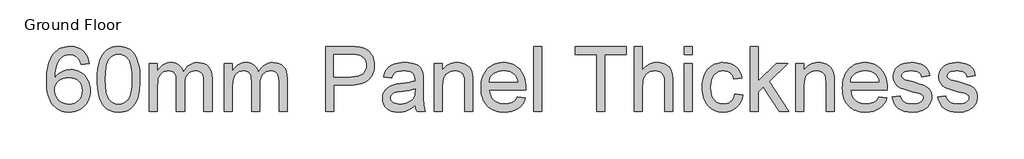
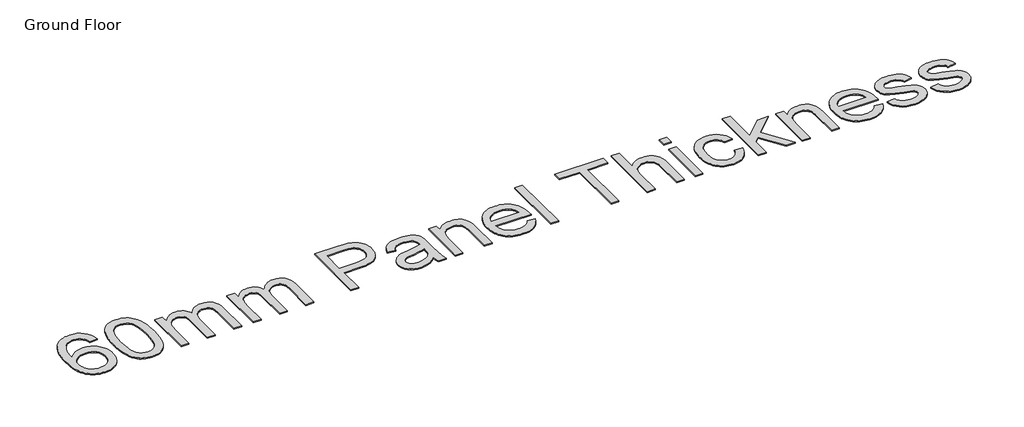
# One storey, part 12 of 14: 1 proxy.
"""IFC4 building model written with IfcOpenShell, lengths in millimetres."""

from ifc_helpers import new_model, si_unit, origin, origin_with_axes, place, context, project, spatial, polyline, outline, extrude, element, save

model = new_model("IFC4")

# Units and contexts
model_context = context("Model", 3, world=origin())
ifc_project = project(units=[si_unit("LENGTHUNIT", "METRE", prefix="MILLI")], contexts=[model_context])

# Site, building, storey
site = spatial("IfcSite", under=ifc_project)
building = spatial("IfcBuilding", under=site)
storey = spatial("IfcBuildingStorey", under=building, Name="Ground Floor", Elevation=0.0)

# Proxy
placement = place(None, origin())
element("IfcBuildingElementProxy", 1, Name="1200mm Arial", ObjectType="1200mm Arial", at=placement, inside=storey, context=model_context, shape_type="SweptSolid", body=[
    extrude(outline(polyline([(10291.2693651, 8965.5363547), (10144.3602742, 8947.1727183), (10133.5644645, 8986.4644442), (10120.6883992, 9019.9816672), (10105.7320782, 9047.7243874), (10088.6955015, 9069.6926047), (10057.1150682, 9096.4310635), (10022.0555867, 9115.5299626), (9983.5170569, 9126.9893021), (9941.4994788, 9130.809082), (9906.8524617, 9128.5853604), (9873.209706, 9121.9141956), (9840.5712117, 9110.7955876), (9808.9369788, 9095.2295365), (9780.0734312, 9069.7733043), (9753.7384702, 9039.0267666), (9729.9320959, 9002.9899236), (9708.6543083, 8961.6627751), (9691.0349013, 8912.319469), (9678.2036691, 8852.234153), (9670.1606116, 8781.406827), (9666.9057288, 8699.8374911), (9694.9084809, 8736.7530628), (9725.8343509, 8768.593528), (9759.6833388, 8795.3588867), (9796.4554447, 8817.0491388), (9835.1643403, 8833.8077503), (9874.8236975, 8845.7781871), (9915.4335164, 8852.9604492), (9956.9937969, 8855.3545365), (9992.9678736, 8853.7181285), (10027.5790242, 8848.8089044), (10060.8272486, 8840.6268643), (10092.7125469, 8829.1720081), (10123.2349191, 8814.4443359), (10152.3943651, 8796.4438476), (10180.190885, 8775.1705433), (10206.6244788, 8750.6244229), (10230.7671013, 8723.4869495), (10251.6907074, 8694.4395862), (10269.3952973, 8663.482333), (10283.8808708, 8630.6151899), (10295.147428, 8595.8381569), (10303.1949688, 8559.151234), (10308.0234933, 8520.5544211), (10309.6330015, 8480.0477183), (10306.6022842, 8426.4901011), (10297.5101322, 8374.8513405), (10282.3565455, 8325.1314364), (10261.1415242, 8277.3303888), (10234.6182643, 8233.232555), (10203.5399617, 8194.6222922), (10167.9066165, 8161.4996004), (10127.7182288, 8133.8644797), (10083.8355938, 8112.0845614), (10037.1195072, 8096.5274768), (9987.5699688, 8087.1932261), (9935.1869788, 8084.0818092), (9890.3381906, 8086.1441317), (9847.6100079, 8092.331099), (9807.0024306, 8102.6427112), (9768.5154589, 8117.0789683), (9732.1490926, 8135.6398703), (9697.9033317, 8158.3254172), (9665.7781764, 8185.135609), (9635.7736265, 8216.0704456), (9608.6383948, 8251.7396572), (9585.121194, 8292.752974), (9565.222024, 8339.1103959), (9548.940885, 8390.8119229), (9536.2777769, 8447.857555), (9527.2326996, 8510.2472922), (9521.8056533, 8577.9811345), (9519.9966378, 8651.059082), (9522.0051606, 8732.8839666), (9528.0307288, 8808.9253817), (9538.0733424, 8879.1833273), (9552.1330015, 8943.6578036), (9570.209706, 9002.3488103), (9592.303456, 9055.2563476), (9618.4142515, 9102.3804154), (9648.5420924, 9143.7210138), (9677.8046545, 9175.1265979), (9709.4971705, 9202.3447709), (9743.6196403, 9225.3755326), (9780.172064, 9244.2188831), (9819.1544415, 9258.8748224), (9860.5667728, 9269.3433504), (9904.4090579, 9275.6244673), (9950.6812969, 9277.7181729), (10018.3434063, 9272.5354669), (10079.5854163, 9256.987349), (10134.4073268, 9231.0738192), (10182.8091378, 9194.7948774), (10223.4817231, 9149.369984), (10255.115956, 9096.018599), (10277.7118367, 9034.7407226), (10291.2693651, 8965.5363547)]), holes=[polyline([(9666.9057288, 8482.3431729), (9669.0308175, 8449.4267134), (9675.4060839, 8417.2455166), (9686.0315278, 8385.7995827), (9700.9071492, 8355.0889115), (9719.306652, 8326.5571288), (9740.5037401, 8301.6478604), (9764.4984134, 8280.3611061), (9791.2906719, 8262.6968661), (9820.7101499, 8248.825506), (9852.5864816, 8238.9173916), (9886.919667, 8232.972523), (9923.709706, 8230.9909001), (9974.774603, 8235.0976118), (10020.6567941, 8247.4177467), (10061.3562792, 8267.951305), (10096.8730583, 8296.6982865), (10125.6828062, 8332.4930308), (10146.2611975, 8374.1698774), (10158.6082323, 8421.7288263), (10162.7239106, 8475.1698774), (10158.662032, 8526.5217063), (10146.4763964, 8572.1169655), (10126.1670036, 8611.9556551), (10097.7338538, 8646.0377751), (10062.1094752, 8673.341131), (10020.2263964, 8692.843528), (9972.0846172, 8704.5449662), (9917.6841378, 8708.4454456), (9867.3007039, 8704.5449662), (9820.8805157, 8692.843528), (9778.4235732, 8673.341131), (9739.9298765, 8646.0377751), (9707.9818118, 8612.4039861), (9685.1617657, 8573.9102893), (9671.469738, 8530.5566849), (9666.9057288, 8482.3431729)])]), origin_with_axes(), (0.0, 0.0, 1.0), 20.0),
    extrude(outline(polyline([(10438.178456, 8680.6130592), (10440.8774084, 8779.4341707), (10448.9742657, 8868.7327325), (10462.4690278, 8948.5087446), (10481.3616947, 9018.762207), (10505.5715668, 9080.0669832), (10535.0179447, 9132.9969371), (10569.7008282, 9177.5520685), (10609.6202174, 9213.7323774), (10654.9106116, 9241.7261629), (10705.70651, 9261.721724), (10762.0079127, 9273.7190607), (10823.8148197, 9277.7181729), (10870.2619077, 9275.3509854), (10914.3418083, 9268.2494229), (10956.0545214, 9256.4134854), (10995.4000469, 9239.8431729), (11031.4279234, 9218.8164506), (11063.187689, 9193.6112837), (11090.6793438, 9164.2276722), (11113.9028878, 9130.6656161), (11134.0239816, 9093.0596146), (11152.2082856, 9051.5441672), (11182.7665242, 8956.7849342), (11194.4410626, 8901.0573952), (11202.7800185, 8836.452903), (11207.7833921, 8762.9714577), (11209.4511833, 8680.6130592), (11206.7791307, 8582.4196111), (11198.7629731, 8493.5693803), (11185.4027103, 8414.0623668), (11166.6983424, 8343.8985706), (11142.6767692, 8282.5668945), (11113.3648907, 8229.5562411), (11078.7627067, 8184.8666104), (11038.8702174, 8148.4980024), (10993.5260235, 8120.3159179), (10942.5687259, 8100.1858575), (10885.9983246, 8088.1078213), (10823.8148197, 8084.0818092), (10782.209706, 8085.8303), (10742.9000469, 8091.0757723), (10705.8858424, 8099.8182261), (10671.1670924, 8112.0576615), (10638.7437969, 8127.7940784), (10608.615956, 8147.0274768), (10580.7835697, 8169.7578568), (10555.2466378, 8195.9852183), (10527.8087827, 8237.5141157), (10504.0293083, 8284.485751), (10483.9082145, 8336.9001242), (10467.4455015, 8394.7572354), (10454.6411691, 8458.0570844), (10445.4952174, 8526.7996715), (10440.0076464, 8600.9849964), (10438.178456, 8680.6130592)]), holes=[polyline([(10585.0875469, 8680.8999911), (10589.3915242, 8553.1884321), (10602.303456, 8449.812278), (10611.9874049, 8407.2499777), (10623.8233424, 8370.7715287), (10637.8112685, 8340.3769309), (10653.9511833, 8316.0661842), (10690.3915242, 8278.8457474), (10730.8489106, 8252.2597212), (10775.3233424, 8236.3081054), (10823.8148197, 8230.9909001), (10872.3062969, 8236.3260386), (10916.7807288, 8252.3314541), (10957.2381151, 8279.0071466), (10993.678456, 8316.3531161), (11009.8183708, 8340.7221457), (11023.8062969, 8371.1481267), (11035.6422344, 8407.6310591), (11045.3261833, 8450.1709428), (11058.2381151, 8553.4215642), (11062.5420924, 8680.8999911), (11058.381581, 8805.2311345), (11045.9000469, 8906.7870649), (11036.5388964, 8949.0243252), (11025.0974901, 8985.5677822), (11011.5758282, 9016.417436), (10995.9739106, 9041.5732865), (10960.1432998, 9080.613947), (10919.2196492, 9108.5001331), (10873.2029589, 9125.2318447), (10822.0932288, 9130.809082), (10773.8528168, 9125.8953746), (10730.131581, 9111.1542524), (10690.9295214, 9086.5857155), (10656.2466378, 9052.1897638), (10639.5687259, 9024.3573774), (10625.1145356, 8991.2167524), (10612.8840668, 8952.7678888), (10602.8773197, 8909.0107865), (10589.5349901, 8805.5718661), (10585.0875469, 8680.8999911)])]), origin_with_axes(), (0.0, 0.0, 1.0), 20.0),
    extrude(outline(polyline([(11374.7239106, 8102.4454456), (11374.7239106, 8965.5363547), (11521.6330015, 8965.5363547), (11521.6330015, 8823.5051047), (11542.1486265, 8857.8920898), (11565.8205015, 8888.7462268), (11592.6486265, 8916.0675159), (11622.6330015, 8939.855957), (11655.289429, 8959.1252219), (11690.1337117, 8972.8889825), (11727.1658495, 8981.1472389), (11766.3858424, 8983.8999911), (11809.264216, 8981.0934392), (11848.0896776, 8972.6737837), (11882.8622273, 8958.6410244), (11913.5818651, 8938.9951615), (11940.1589248, 8914.2921253), (11962.5037401, 8885.0878462), (11980.6163111, 8851.3823242), (11994.4966378, 8813.1755592), (12020.3294681, 8853.1890979), (12048.0452884, 8887.8674982), (12077.6440988, 8917.2107599), (12109.1258992, 8941.2188831), (12142.4906897, 8959.8918678), (12177.7384702, 8973.2297141), (12214.8692408, 8981.2324218), (12253.8830015, 8983.8999911), (12312.6950576, 8979.4615145), (12364.315885, 8966.1460848), (12408.7454837, 8943.953702), (12445.9838538, 8912.8843661), (12475.421265, 8872.5794122), (12496.4479873, 8822.6801757), (12509.0640207, 8763.1866565), (12513.2693651, 8694.0988547), (12513.2693651, 8102.4454456), (12366.3602742, 8102.4454456), (12366.3602742, 8630.9738547), (12362.9529589, 8704.2490678), (12352.7310128, 8753.637207), (12344.5355228, 8771.4538795), (12333.578314, 8787.459295), (12319.8593864, 8801.6534534), (12303.3787401, 8814.0363547), (12284.7371386, 8824.0789683), (12264.5353452, 8831.2522638), (12219.4511833, 8836.9909001), (12177.8191698, 8833.3145862), (12139.8634702, 8822.2856445), (12105.5840846, 8803.9040749), (12074.9810128, 8778.1698774), (12049.8117124, 8744.3298561), (12031.8336407, 8701.6308149), (12021.0467976, 8650.0727538), (12017.4511833, 8589.6556729), (12017.4511833, 8102.4454456), (11870.5420924, 8102.4454456), (11870.5420924, 8647.3289683), (11868.4170036, 8691.8392666), (11862.0417373, 8730.3957297), (11851.4162934, 8762.9983575), (11836.5406719, 8789.6471501), (11816.8230761, 8810.3600408), (11791.6717089, 8825.1549626), (11761.0865704, 8834.0319158), (11725.0676606, 8836.9909001), (11696.2130796, 8835.0182439), (11668.4703594, 8829.1002751), (11641.8395001, 8819.2369939), (11616.3205015, 8805.4284001), (11593.0790242, 8787.8179598), (11573.2807288, 8766.5491388), (11556.9256151, 8741.6219371), (11544.0136833, 8713.0363547), (11534.222135, 8679.2680663), (11527.2281719, 8638.7927467), (11521.6330015, 8537.7210138), (11521.6330015, 8102.4454456), (11374.7239106, 8102.4454456)])), origin_with_axes(), (0.0, 0.0, 1.0), 20.0),
    extrude(outline(polyline([(12733.6330015, 8102.4454456), (12733.6330015, 8965.5363547), (12880.5420924, 8965.5363547), (12880.5420924, 8823.5051047), (12901.0577174, 8857.8920898), (12924.7295924, 8888.7462268), (12951.5577174, 8916.0675159), (12981.5420924, 8939.855957), (13014.1985199, 8959.1252219), (13049.0428026, 8972.8889825), (13086.0749404, 8981.1472389), (13125.2949333, 8983.8999911), (13168.1733069, 8981.0934392), (13206.9987685, 8972.6737837), (13241.7713182, 8958.6410244), (13272.490956, 8938.9951615), (13299.0680157, 8914.2921253), (13321.412831, 8885.0878462), (13339.525402, 8851.3823242), (13353.4057288, 8813.1755592), (13379.238559, 8853.1890979), (13406.9543793, 8887.8674982), (13436.5531897, 8917.2107599), (13468.0349901, 8941.2188831), (13501.3997806, 8959.8918678), (13536.6475611, 8973.2297141), (13573.7783317, 8981.2324218), (13612.7920924, 8983.8999911), (13671.6041485, 8979.4615145), (13723.2249759, 8966.1460848), (13767.6545746, 8943.953702), (13804.8929447, 8912.8843661), (13834.3303559, 8872.5794122), (13855.3570782, 8822.6801757), (13867.9731116, 8763.1866565), (13872.178456, 8694.0988547), (13872.178456, 8102.4454456), (13725.2693651, 8102.4454456), (13725.2693651, 8630.9738547), (13721.8620498, 8704.2490678), (13711.6401038, 8753.637207), (13703.4446137, 8771.4538795), (13692.4874049, 8787.459295), (13678.7684773, 8801.6534534), (13662.287831, 8814.0363547), (13643.6462295, 8824.0789683), (13623.4444361, 8831.2522638), (13578.3602742, 8836.9909001), (13536.7282607, 8833.3145862), (13498.7725611, 8822.2856445), (13464.4931755, 8803.9040749), (13433.8901038, 8778.1698774), (13408.7208033, 8744.3298561), (13390.7427316, 8701.6308149), (13379.9558886, 8650.0727538), (13376.3602742, 8589.6556729), (13376.3602742, 8102.4454456), (13229.4511833, 8102.4454456), (13229.4511833, 8647.3289683), (13227.3260945, 8691.8392666), (13220.9508282, 8730.3957297), (13210.3253843, 8762.9983575), (13195.4497628, 8789.6471501), (13175.732167, 8810.3600408), (13150.5807998, 8825.1549626), (13119.9956613, 8834.0319158), (13083.9767515, 8836.9909001), (13055.1221705, 8835.0182439), (13027.3794503, 8829.1002751), (13000.748591, 8819.2369939), (12975.2295924, 8805.4284001), (12951.9881151, 8787.8179598), (12932.1898197, 8766.5491388), (12915.834706, 8741.6219371), (12902.9227742, 8713.0363547), (12893.1312259, 8679.2680663), (12886.1372628, 8638.7927467), (12880.5420924, 8537.7210138), (12880.5420924, 8102.4454456), (12733.6330015, 8102.4454456)])), origin_with_axes(), (0.0, 0.0, 1.0), 20.0),
    extrude(outline(polyline([(14569.9966378, 8102.4454456), (14569.9966378, 9277.7181729), (15005.5591378, 9277.7181729), (15106.9895356, 9274.9205876), (15181.1614106, 9266.527832), (15222.040228, 9257.7136452), (15259.4579305, 9245.6176757), (15293.4145178, 9230.2399236), (15323.9099901, 9211.5803888), (15351.2671457, 9189.2535067), (15375.8087827, 9162.8737126), (15397.5349013, 9132.4410067), (15416.4455015, 9097.9553888), (15431.7604873, 9060.5556196), (15442.6997628, 9021.3804598), (15449.2633282, 8980.4299094), (15451.4511833, 8937.7039683), (15445.5421812, 8865.5585493), (15438.1559285, 8831.6512783), (15427.8151748, 8799.1876331), (15414.51992, 8768.1676136), (15398.2701641, 8738.5912197), (15379.0659072, 8710.4584516), (15356.9071492, 8683.7693092), (15330.8927449, 8659.4249378), (15300.1215491, 8638.3264825), (15264.5935617, 8620.4739435), (15224.3087827, 8605.8673206), (15179.2672122, 8594.5066139), (15129.4688502, 8586.3918234), (15074.9136966, 8581.5229492), (15015.6017515, 8579.8999911), (14716.9057288, 8579.8999911), (14716.9057288, 8102.4454456), (14569.9966378, 8102.4454456)]), holes=[polyline([(14716.9057288, 8726.809082), (15024.209706, 8726.809082), (15094.8666663, 8730.1805308), (15154.4767515, 8740.2948774), (15203.0399617, 8757.1521217), (15240.5562969, 8780.7522638), (15268.5500824, 8810.4676402), (15288.5456435, 8845.6705876), (15300.5429802, 8886.3611061), (15304.5420924, 8932.5391956), (15302.1838715, 8966.8275479), (15295.1092089, 8998.5335138), (15283.3181045, 9027.6570933), (15266.8105583, 9054.1982865), (15246.4652991, 9077.2962979), (15223.1610555, 9096.090332), (15196.8978275, 9110.5803888), (15167.6756151, 9120.7664683), (15111.006581, 9128.2984286), (15020.7665242, 9130.809082), (14716.9057288, 9130.809082), (14716.9057288, 8726.809082)])]), origin_with_axes(), (0.0, 0.0, 1.0), 20.0),
    extrude(outline(polyline([(16185.9966378, 8212.6272638), (16151.1613218, 8179.9349697), (16115.8059418, 8152.4433149), (16079.9304979, 8130.1522993), (16043.5349901, 8113.0619229), (16006.2069539, 8100.3831232), (15967.5339248, 8091.3268376), (15927.5159028, 8085.8930663), (15886.1528878, 8084.0818092), (15820.7413999, 8088.4395862), (15763.3819361, 8101.5129172), (15714.0744965, 8123.3018021), (15672.819081, 8153.8062411), (15640.243353, 8191.0894442), (15616.9749759, 8233.2146217), (15603.0139496, 8280.1817737), (15598.3602742, 8331.9909001), (15600.1177316, 8363.1409357), (15605.3901038, 8392.8921786), (15614.1773907, 8421.2446288), (15626.4795924, 8448.1982865), (15641.6421457, 8473.1613547), (15659.0104873, 8495.5420365), (15678.5846172, 8515.340332), (15700.3645356, 8532.5562411), (15748.9636123, 8560.5320933), (15803.2295924, 8580.7607865), (15856.0967799, 8592.0228604), (15930.3403878, 8602.8545365), (16080.5491947, 8626.0960138), (16138.5452884, 8639.2231445), (16185.1358424, 8653.3545365), (16185.9966378, 8686.0647638), (16183.4680512, 8721.6801757), (16175.8822913, 8751.6286842), (16163.239358, 8775.9102893), (16145.5392515, 8794.5249911), (16114.9451464, 8813.1038263), (16077.6798765, 8826.3744229), (16033.7434418, 8834.3367808), (15983.1358424, 8836.9909001), (15936.0790242, 8835.2244761), (15895.6216378, 8829.9252041), (15861.7636833, 8821.0930841), (15834.5051606, 8808.7281161), (15812.1065455, 8791.8619051), (15792.828314, 8769.5260564), (15776.670466, 8741.7205699), (15763.6330015, 8708.4454456), (15616.7239106, 8726.809082), (15627.9052849, 8769.1315251), (15642.2249759, 8807.1499911), (15659.6829837, 8840.8644797), (15680.2793083, 8870.2749911), (15704.9016449, 8895.973322), (15734.437689, 8918.5512695), (15768.8874404, 8938.0088334), (15808.2508992, 8954.3460138), (15851.7300363, 8967.2758788), (15898.5268225, 8976.5114967), (15948.6412579, 8982.0528675), (16002.0733424, 8983.8999911), (16054.3038999, 8982.2680663), (16101.387618, 8977.3722922), (16143.3244965, 8969.2126686), (16180.1145356, 8957.7891956), (16212.0626002, 8943.8999023), (16239.4735555, 8928.3428178), (16262.3474013, 8911.117942), (16280.6841378, 8892.2252751), (16295.5507927, 8871.1985528), (16308.0143935, 8847.5715109), (16325.7324333, 8792.5164683), (16331.1124049, 8741.7295365), (16332.9057288, 8663.9710138), (16332.9057288, 8481.1954456), (16334.7707856, 8321.984153), (16340.365956, 8225.9695933), (16351.412831, 8162.8804598), (16369.6330015, 8102.4454456), (16222.7239106, 8102.4454456), (16209.6685128, 8126.9781161), (16199.1955015, 8153.5193092), (16185.9966378, 8212.6272638)]), holes=[polyline([(16185.9966378, 8506.4454456), (16141.593939, 8493.7307794), (16087.2920924, 8481.9845081), (15948.990956, 8461.3971501), (15872.7746918, 8450.1350763), (15822.5974901, 8437.5818092), (15789.7079305, 8421.2984286), (15765.3545924, 8398.8460138), (15750.2906719, 8371.9461558), (15745.2693651, 8342.3204456), (15748.004184, 8319.4914328), (15756.2086407, 8298.6350763), (15769.8827351, 8279.751376), (15789.0264674, 8262.840332), (15813.460505, 8248.9062055), (15843.0055157, 8238.9532581), (15877.6614993, 8232.9814896), (15917.428456, 8230.9909001), (15958.0293083, 8233.1877219), (15996.334706, 8239.7781871), (16032.3446492, 8250.7622957), (16066.0591378, 8266.1400479), (16096.4739106, 8284.6381835), (16122.584706, 8304.9834428), (16144.3915242, 8327.1758256), (16161.8943651, 8351.215332), (16172.0625114, 8372.7352183), (16179.3254731, 8398.8460138), (16183.6832501, 8429.5477183), (16185.1358424, 8464.840332), (16185.9966378, 8506.4454456)])]), origin_with_axes(), (0.0, 0.0, 1.0), 20.0),
    extrude(outline(polyline([(16534.9057288, 8102.4454456), (16534.9057288, 8965.5363547), (16681.8148197, 8965.5363547), (16681.8148197, 8845.0249911), (16706.0515917, 8877.5738192), (16732.8528168, 8905.7828036), (16762.2184951, 8929.6519442), (16794.1486265, 8949.1812411), (16828.643211, 8964.3706942), (16865.7022486, 8975.2203036), (16905.3257394, 8981.7300692), (16947.5136833, 8983.8999911), (16984.4830547, 8982.1515003), (17019.9281009, 8976.906028), (17053.8488218, 8968.1635742), (17086.2452174, 8955.9241388), (17115.8888609, 8940.8422851), (17141.5513253, 8923.5725763), (17163.2326109, 8904.1150124), (17180.9327174, 8882.4695933), (17207.653243, 8832.7227893), (17224.9767515, 8774.4397638), (17230.7871208, 8718.7032581), (17232.7239106, 8632.4085138), (17232.7239106, 8102.4454456), (17085.8148197, 8102.4454456), (17085.8148197, 8612.6102183), (17081.5825753, 8688.5754172), (17076.2922699, 8718.3266601), (17068.8858424, 8742.590332), (17058.7983957, 8763.0252574), (17045.4650327, 8781.2902609), (17028.8857536, 8797.3853426), (17009.0605583, 8811.3105024), (16986.6709099, 8822.5456764), (16962.3982714, 8830.5708007), (16936.2426428, 8835.3858753), (16908.2040242, 8836.9909001), (16863.5950931, 8833.3863192), (16822.1603452, 8822.5725763), (16783.8997806, 8804.5496715), (16748.8133992, 8779.3176047), (16733.1106071, 8763.280806), (16719.5015207, 8744.0070578), (16707.9861398, 8721.49636), (16698.5644645, 8695.7487126), (16686.0022309, 8634.5425692), (16681.8148197, 8560.3886274), (16681.8148197, 8102.4454456), (16534.9057288, 8102.4454456)])), origin_with_axes(), (0.0, 0.0, 1.0), 20.0),
    extrude(outline(polyline([(18039.0023197, 8359.5363547), (18183.0420924, 8341.1727183), (18160.957309, 8283.4814896), (18131.1432998, 8232.6407581), (18093.6000647, 8188.6505237), (18048.3276038, 8151.5107865), (17995.7921812, 8122.010609), (17936.4600611, 8100.9390536), (17870.3312437, 8088.2961203), (17797.4057288, 8084.0818092), (17750.586526, 8085.8997913), (17706.2510768, 8091.3537375), (17664.3993811, 8100.4436478), (17625.031439, 8113.1695223), (17588.1472504, 8129.5313609), (17553.7468154, 8149.5291636), (17521.8301339, 8173.1629305), (17492.397206, 8200.4326615), (17465.9680956, 8230.9841752), (17443.0628665, 8264.4632901), (17423.6815189, 8300.8700061), (17407.8240526, 8340.2043234), (17395.4904677, 8382.4662419), (17386.6807643, 8427.6557617), (17381.3949422, 8475.7728826), (17379.6330015, 8526.8176047), (17381.4128754, 8579.5996093), (17386.7524972, 8629.34193), (17395.6518669, 8676.0445667), (17408.1109844, 8719.7075195), (17424.1298498, 8760.3307883), (17443.7084631, 8797.9143732), (17466.8468243, 8832.4582741), (17493.5449333, 8863.9624911), (17523.0809773, 8892.0728426), (17554.7331435, 8916.4351473), (17588.5014319, 8937.0494051), (17624.3858424, 8953.9156161), (17662.3863751, 8967.0337801), (17702.5030299, 8976.4038973), (17744.7358069, 8982.0259676), (17789.084706, 8983.8999911), (17831.9832545, 8982.0304509), (17872.8777636, 8976.4218305), (17911.7682332, 8967.0741299), (17948.6546634, 8953.987349), (17983.5370542, 8937.1614879), (18016.4154056, 8916.5965465), (18047.2897176, 8892.2925248), (18076.1599901, 8864.2494229), (18102.2864772, 8832.8169389), (18124.9294326, 8798.3447709), (18144.0888564, 8760.832919), (18159.7647486, 8720.2813831), (18171.9571093, 8676.6901633), (18180.6659383, 8630.0592595), (18185.8912357, 8580.3886718), (18187.6330015, 8527.6784001), (18186.772206, 8488.0818092), (17526.5420924, 8488.0818092), (17535.0514141, 8429.4580521), (17551.9714248, 8378.1151899), (17577.3021243, 8334.0532226), (17611.0435128, 8297.2721501), (17651.3305334, 8268.2741033), (17696.2981293, 8247.5612126), (17745.9463005, 8235.1334783), (17800.2750469, 8230.9909001), (17840.9117657, 8232.9097567), (17878.4639674, 8238.6663263), (17912.931652, 8248.260609), (17944.3148197, 8261.6926047), (17972.6134702, 8279.3209783), (17997.8276038, 8301.5043945), (18019.9572202, 8328.2428533), (18039.0023197, 8359.5363547)]), holes=[polyline([(17526.5420924, 8634.9909001), (18040.7239106, 8634.9909001), (18033.1740171, 8676.5601473), (18020.8538822, 8712.605957), (18003.7635057, 8743.1283291), (17981.9028878, 8768.1272638), (17941.8400327, 8798.2551047), (17896.2537401, 8819.7749911), (17845.14401, 8832.6869229), (17788.5108424, 8836.9909001), (17736.8541485, 8833.5566849), (17689.4834986, 8823.2540393), (17646.3988928, 8806.0829634), (17607.600331, 8782.043457), (17575.0425363, 8752.247381), (17550.6802316, 8717.8065962), (17534.513417, 8678.7211026), (17526.5420924, 8634.9909001)])]), origin_with_axes(), (0.0, 0.0, 1.0), 20.0),
    extrude(outline(polyline([(18334.5420924, 8102.4454456), (18334.5420924, 9277.7181729), (18481.4511833, 9277.7181729), (18481.4511833, 8102.4454456), (18334.5420924, 8102.4454456)])), origin_with_axes(), (0.0, 0.0, 1.0), 20.0),
    extrude(outline(polyline([(19473.0875469, 8102.4454456), (19473.0875469, 9130.809082), (19087.4511833, 9130.809082), (19087.4511833, 9277.7181729), (20005.6330015, 9277.7181729), (20005.6330015, 9130.809082), (19619.9966378, 9130.809082), (19619.9966378, 8102.4454456), (19473.0875469, 8102.4454456)])), origin_with_axes(), (0.0, 0.0, 1.0), 20.0),
    extrude(outline(polyline([(20152.5420924, 8102.4454456), (20152.5420924, 9277.7181729), (20299.4511833, 9277.7181729), (20299.4511833, 8845.5988547), (20325.6023285, 8878.0131835), (20353.4122984, 8906.1056018), (20382.8810927, 8929.8761097), (20414.0087117, 8949.324707), (20446.7951552, 8964.4513938), (20481.2404234, 8975.25617), (20517.344516, 8981.7390358), (20555.1074333, 8983.8999911), (20601.0344574, 8981.5417702), (20643.8410981, 8974.4671075), (20683.5273552, 8962.6760031), (20720.0932288, 8946.168457), (20752.6061904, 8925.5003994), (20780.1337117, 8901.2277609), (20802.6757927, 8873.3505415), (20820.2324333, 8841.8687411), (20833.4133637, 8804.8366033), (20842.828314, 8760.3083717), (20848.4772842, 8708.2840465), (20850.3602742, 8648.7636274), (20850.3602742, 8102.4454456), (20703.4511833, 8102.4454456), (20703.4511833, 8633.5562411), (20700.5280654, 8683.1595791), (20691.7587117, 8725.5178888), (20677.1431222, 8760.63117), (20656.6812969, 8788.4994229), (20630.8574333, 8809.7144442), (20600.1557288, 8824.8680308), (20564.5761833, 8833.9601828), (20524.1187969, 8836.9909001), (20492.60113, 8834.9465109), (20462.0339248, 8828.8133433), (20432.4171812, 8818.5913973), (20403.7508992, 8804.2806729), (20377.586304, 8786.4729669), (20355.4746208, 8765.7600763), (20337.4158495, 8742.142001), (20323.4099901, 8715.6187411), (20312.9280121, 8684.9708362), (20305.440885, 8648.9788263), (20300.9486087, 8607.6427112), (20299.4511833, 8560.9624911), (20299.4511833, 8102.4454456), (20152.5420924, 8102.4454456)])), origin_with_axes(), (0.0, 0.0, 1.0), 20.0),
    extrude(outline(polyline([(21052.3602742, 8102.4454456), (21052.3602742, 8965.5363547), (21199.2693651, 8965.5363547), (21199.2693651, 8102.4454456), (21052.3602742, 8102.4454456)])), origin_with_axes(), (0.0, 0.0, 1.0), 20.0),
    extrude(outline(polyline([(21052.3602742, 9130.809082), (21052.3602742, 9277.7181729), (21199.2693651, 9277.7181729), (21199.2693651, 9130.809082), (21052.3602742, 9130.809082)])), origin_with_axes(), (0.0, 0.0, 1.0), 20.0),
    extrude(outline(polyline([(21970.5420924, 8414.6272638), (22117.4511833, 8396.2636274), (22101.4726677, 8326.9426935), (22076.4916663, 8265.6020507), (22042.508179, 8212.2416992), (21999.522206, 8166.8616388), (21949.3450043, 8130.6454634), (21893.787831, 8104.7767666), (21832.8506861, 8089.2555486), (21766.5335697, 8084.0818092), (21724.2716512, 8085.8863414), (21684.1393047, 8091.2999378), (21646.1365304, 8100.3225985), (21610.2633282, 8112.9543234), (21576.519698, 8129.1951127), (21544.90564, 8149.0449662), (21515.421154, 8172.503884), (21488.0662401, 8199.5718661), (21463.4192453, 8230.011297), (21442.0585164, 8263.5845614), (21423.9840535, 8300.2916592), (21409.1958566, 8340.1325905), (21397.6939257, 8383.1073552), (21389.4782607, 8429.2159534), (21384.5488617, 8478.4583851), (21382.9057288, 8530.8346501), (21385.7122806, 8598.3801935), (21394.1319361, 8661.5679598), (21408.1646954, 8720.3979492), (21427.8105583, 8774.8701615), (21453.2040242, 8823.8906693), (21484.4795924, 8866.365545), (21521.6372628, 8902.2947886), (21564.6770356, 8931.6784001), (21611.6531542, 8954.5253462), (21660.6198623, 8970.8445933), (21711.5771599, 8980.6361416), (21764.5250469, 8983.8999911), (21829.7034028, 8979.4166814), (21888.6589248, 8965.9667524), (21941.391613, 8943.5502041), (21987.9014674, 8912.1670365), (22027.3994255, 8872.5345791), (22059.0964248, 8825.3701615), (22082.9924653, 8770.6737837), (22099.0875469, 8708.4454456), (21952.178456, 8690.0818092), (21940.7101499, 8724.3970614), (21925.5296634, 8754.1752041), (21906.6369965, 8779.4162375), (21884.0321492, 8800.1201615), (21858.2889851, 8816.2511097), (21829.981368, 8827.7732155), (21799.1092976, 8834.686479), (21765.6727742, 8836.9909001), (21715.7556045, 8832.4537908), (21670.7342089, 8818.8424626), (21630.6085874, 8796.1569158), (21595.3787401, 8764.3971501), (21580.0121963, 8744.9306196), (21566.6945249, 8722.827903), (21546.2057998, 8670.7139115), (21533.9125647, 8608.0551757), (21529.8148197, 8534.8516956), (21533.8228985, 8460.5453213), (21545.847135, 8397.1602893), (21565.8875292, 8344.6965997), (21578.9137854, 8322.5602583), (21593.944081, 8303.1542524), (21628.474532, 8271.5827858), (21667.9366236, 8249.0317382), (21712.3303559, 8235.5011097), (21761.6557288, 8230.9909001), (21801.4047522, 8233.8064186), (21837.728527, 8242.252974), (21870.6270533, 8256.3305663), (21900.100331, 8276.0391956), (21925.3234312, 8301.5940607), (21945.4714248, 8333.2103604), (21960.5443118, 8370.8880947), (21970.5420924, 8414.6272638)])), origin_with_axes(), (0.0, 0.0, 1.0), 20.0),
    extrude(outline(polyline([(22245.9966378, 8102.4454456), (22245.9966378, 9277.7181729), (22392.9057288, 9277.7181729), (22392.9057288, 8646.1812411), (22722.303456, 8965.5363547), (22925.4511833, 8965.5363547), (22592.0364106, 8642.1641956), (22943.8148197, 8102.4454456), (22772.2295924, 8102.4454456), (22486.7324333, 8540.0164683), (22392.9057288, 8449.059082), (22392.9057288, 8102.4454456), (22245.9966378, 8102.4454456)])), origin_with_axes(), (0.0, 0.0, 1.0), 20.0),
    extrude(outline(polyline([(23072.3602742, 8102.4454456), (23072.3602742, 8965.5363547), (23219.2693651, 8965.5363547), (23219.2693651, 8845.0249911), (23243.5061371, 8877.5738192), (23270.3073623, 8905.7828036), (23299.6730405, 8929.6519442), (23331.6031719, 8949.1812411), (23366.0977565, 8964.3706942), (23403.1567941, 8975.2203036), (23442.7802849, 8981.7300692), (23484.9682288, 8983.8999911), (23521.9376002, 8982.1515003), (23557.3826464, 8976.906028), (23591.3033672, 8968.1635742), (23623.6997628, 8955.9241388), (23653.3434063, 8940.8422851), (23679.0058708, 8923.5725763), (23700.6871563, 8904.1150124), (23718.3872628, 8882.4695933), (23745.1077884, 8832.7227893), (23762.4312969, 8774.4397638), (23768.2416663, 8718.7032581), (23770.178456, 8632.4085138), (23770.178456, 8102.4454456), (23623.2693651, 8102.4454456), (23623.2693651, 8612.6102183), (23619.0371208, 8688.5754172), (23613.7468154, 8718.3266601), (23606.3403878, 8742.590332), (23596.2529411, 8763.0252574), (23582.9195782, 8781.2902609), (23566.3402991, 8797.3853426), (23546.5151038, 8811.3105024), (23524.1254553, 8822.5456764), (23499.8528168, 8830.5708007), (23473.6971883, 8835.3858753), (23445.6585697, 8836.9909001), (23401.0496386, 8833.3863192), (23359.6148907, 8822.5725763), (23321.3543261, 8804.5496715), (23286.2679447, 8779.3176047), (23270.5651526, 8763.280806), (23256.9560661, 8744.0070578), (23245.4406853, 8721.49636), (23236.01901, 8695.7487126), (23223.4567763, 8634.5425692), (23219.2693651, 8560.3886274), (23219.2693651, 8102.4454456), (23072.3602742, 8102.4454456)])), origin_with_axes(), (0.0, 0.0, 1.0), 20.0),
    extrude(outline(polyline([(24576.4568651, 8359.5363547), (24720.4966378, 8341.1727183), (24698.4118545, 8283.4814896), (24668.5978452, 8232.6407581), (24631.0546101, 8188.6505237), (24585.7821492, 8151.5107865), (24533.2467266, 8122.010609), (24473.9146066, 8100.9390536), (24407.7857891, 8088.2961203), (24334.8602742, 8084.0818092), (24288.0410714, 8085.8997913), (24243.7056222, 8091.3537375), (24201.8539266, 8100.4436478), (24162.4859844, 8113.1695223), (24125.6017959, 8129.5313609), (24091.2013609, 8149.5291636), (24059.2846794, 8173.1629305), (24029.8517515, 8200.4326615), (24003.422641, 8230.9841752), (23980.517412, 8264.4632901), (23961.1360643, 8300.8700061), (23945.2785981, 8340.2043234), (23932.9450132, 8382.4662419), (23924.1353097, 8427.6557617), (23918.8494876, 8475.7728826), (23917.0875469, 8526.8176047), (23918.8674209, 8579.5996093), (23924.2070427, 8629.34193), (23933.1064123, 8676.0445667), (23945.5655299, 8719.7075195), (23961.5843953, 8760.3307883), (23981.1630086, 8797.9143732), (24004.3013697, 8832.4582741), (24030.9994788, 8863.9624911), (24060.5355228, 8892.0728426), (24092.187689, 8916.4351473), (24125.9559773, 8937.0494051), (24161.8403878, 8953.9156161), (24199.8409205, 8967.0337801), (24239.9575753, 8976.4038973), (24282.1903523, 8982.0259676), (24326.5392515, 8983.8999911), (24369.4378, 8982.0304509), (24410.332309, 8976.4218305), (24449.2227786, 8967.0741299), (24486.1092089, 8953.987349), (24520.9915997, 8937.1614879), (24553.8699511, 8916.5965465), (24584.744263, 8892.2925248), (24613.6145356, 8864.2494229), (24639.7410226, 8832.8169389), (24662.383978, 8798.3447709), (24681.5434019, 8760.832919), (24697.2192941, 8720.2813831), (24709.4116547, 8676.6901633), (24718.1204837, 8630.0592595), (24723.3457811, 8580.3886718), (24725.0875469, 8527.6784001), (24724.2267515, 8488.0818092), (24063.9966378, 8488.0818092), (24072.5059596, 8429.4580521), (24089.4259702, 8378.1151899), (24114.7566698, 8334.0532226), (24148.4980583, 8297.2721501), (24188.7850789, 8268.2741033), (24233.7526748, 8247.5612126), (24283.4008459, 8235.1334783), (24337.7295924, 8230.9909001), (24378.3663111, 8232.9097567), (24415.9185128, 8238.6663263), (24450.3861975, 8248.260609), (24481.7693651, 8261.6926047), (24510.0680157, 8279.3209783), (24535.2821492, 8301.5043945), (24557.4117657, 8328.2428533), (24576.4568651, 8359.5363547)]), holes=[polyline([(24063.9966378, 8634.9909001), (24578.178456, 8634.9909001), (24570.6285626, 8676.5601473), (24558.3084276, 8712.605957), (24541.2180512, 8743.1283291), (24519.3574333, 8768.1272638), (24479.2945782, 8798.2551047), (24433.7082856, 8819.7749911), (24382.5985555, 8832.6869229), (24325.9653878, 8836.9909001), (24274.308694, 8833.5566849), (24226.9380441, 8823.2540393), (24183.8534383, 8806.0829634), (24145.0548765, 8782.043457), (24112.4970817, 8752.247381), (24088.134777, 8717.8065962), (24071.9679624, 8678.7211026), (24063.9966378, 8634.9909001)])]), origin_with_axes(), (0.0, 0.0, 1.0), 20.0),
    extrude(outline(polyline([(24816.9057288, 8359.5363547), (24963.8148197, 8377.8999911), (24972.6917728, 8344.4007013), (24986.984564, 8315.0619229), (25006.6931932, 8289.8836558), (25031.8176606, 8268.8659001), (25062.4296989, 8252.2955876), (25098.6010413, 8240.4596501), (25140.3316876, 8233.3580876), (25187.6216378, 8230.9909001), (25234.8577884, 8233.160822), (25275.5662401, 8239.6705876), (25309.746993, 8250.520197), (25337.4000469, 8265.7096501), (25358.7406009, 8283.8222212), (25373.9838538, 8303.4411842), (25383.1298055, 8324.5665393), (25386.178456, 8347.1982865), (25383.1118722, 8367.0324484), (25373.9121208, 8384.6428888), (25358.5792018, 8400.0296075), (25337.1131151, 8413.1926047), (25282.093939, 8431.8431729), (25185.9000469, 8455.0846501), (25051.8311549, 8493.8563121), (24964.6756151, 8526.9610706), (24934.7540065, 8543.558283), (24908.6880441, 8563.0786132), (24886.477728, 8585.5220614), (24868.1230583, 8610.8886274), (24853.7495675, 8638.4161487), (24843.4827884, 8667.3424626), (24837.3227209, 8697.6675692), (24835.2693651, 8729.3914683), (24836.9192231, 8758.3984818), (24841.8687969, 8786.3115678), (24850.1180867, 8813.1307261), (24861.6670924, 8838.855957), (24876.067483, 8862.9671963), (24892.8709276, 8884.9443803), (24912.0774262, 8904.7875088), (24933.6869788, 8922.496582), (24974.2519645, 8946.1325905), (25027.0832856, 8965.9667524), (25088.1638964, 8979.4166814), (25153.4767515, 8983.8999911), (25202.8469574, 8982.0977006), (25249.0967799, 8976.6908291), (25292.2262188, 8967.6793767), (25332.2352742, 8955.0633433), (25368.1734844, 8939.3717595), (25399.0903878, 8921.1336558), (25424.9859844, 8900.3490322), (25445.8602742, 8877.0178888), (25462.7892515, 8850.3242631), (25476.8489106, 8819.4521928), (25488.0392515, 8784.4016778), (25496.3602742, 8745.1727183), (25349.4511833, 8726.809082), (25342.4482536, 8751.350719), (25330.9082145, 8773.0409712), (25314.8310661, 8791.8798384), (25294.2168083, 8807.8673206), (25268.9757749, 8820.6088867), (25239.0182998, 8829.7100053), (25204.3443829, 8835.1706764), (25164.9540242, 8836.9909001), (25119.2601322, 8835.251376), (25080.5960697, 8830.0328036), (25048.9618367, 8821.3351828), (25024.3574333, 8809.1585138), (25005.9041307, 8794.668457), (24992.7232003, 8779.0306729), (24984.8146421, 8762.2451615), (24982.178456, 8744.3119229), (24986.5541663, 8721.7160422), (24999.6812969, 8701.559082), (25022.1337117, 8683.5541104), (25054.4852742, 8669.1357865), (25181.022206, 8637.8602183), (25310.8229873, 8599.4830876), (25396.6514674, 8568.7096501), (25426.8510413, 8553.6995294), (25453.6074333, 8535.6407581), (25476.9206435, 8514.5333362), (25496.7906719, 8490.3772638), (25512.6705547, 8463.1366743), (25524.0133282, 8432.7757013), (25530.8189922, 8399.2943447), (25533.0875469, 8362.6926047), (25530.424461, 8325.9294655), (25522.4352032, 8290.2423206), (25509.1197735, 8255.63117), (25490.4781719, 8222.0960138), (25466.8152636, 8190.9728781), (25438.4359134, 8163.5977893), (25405.3401215, 8139.9707474), (25367.5278878, 8120.0917524), (25326.0303736, 8104.3374023), (25281.8787401, 8093.084295), (25235.0729873, 8086.3324307), (25185.6131151, 8084.0818092), (25106.545466, 8088.421653), (25037.484564, 8101.4411842), (24978.4304092, 8123.140403), (24929.3830015, 8153.5193092), (24889.3201464, 8192.4344371), (24857.2196492, 8239.7423206), (24833.08151, 8295.4429598), (24816.9057288, 8359.5363547)])), origin_with_axes(), (0.0, 0.0, 1.0), 20.0),
    extrude(outline(polyline([(25643.2693651, 8359.5363547), (25790.178456, 8377.8999911), (25799.0554092, 8344.4007013), (25813.3482003, 8315.0619229), (25833.0568296, 8289.8836558), (25858.1812969, 8268.8659001), (25888.7933353, 8252.2955876), (25924.9646776, 8240.4596501), (25966.6953239, 8233.3580876), (26013.9852742, 8230.9909001), (26061.2214248, 8233.160822), (26101.9298765, 8239.6705876), (26136.1106293, 8250.520197), (26163.7636833, 8265.7096501), (26185.1042373, 8283.8222212), (26200.3474901, 8303.4411842), (26209.4934418, 8324.5665393), (26212.5420924, 8347.1982865), (26209.4755086, 8367.0324484), (26200.2757572, 8384.6428888), (26184.9428381, 8400.0296075), (26163.4767515, 8413.1926047), (26108.4575753, 8431.8431729), (26012.2636833, 8455.0846501), (25878.1947913, 8493.8563121), (25791.0392515, 8526.9610706), (25761.1176428, 8543.558283), (25735.0516805, 8563.0786132), (25712.8413644, 8585.5220614), (25694.4866947, 8610.8886274), (25680.1132039, 8638.4161487), (25669.8464248, 8667.3424626), (25663.6863573, 8697.6675692), (25661.6330015, 8729.3914683), (25663.2828594, 8758.3984818), (25668.2324333, 8786.3115678), (25676.4817231, 8813.1307261), (25688.0307288, 8838.855957), (25702.4311194, 8862.9671963), (25719.234564, 8884.9443803), (25738.4410626, 8904.7875088), (25760.0506151, 8922.496582), (25800.6156009, 8946.1325905), (25853.4469219, 8965.9667524), (25914.5275327, 8979.4166814), (25979.8403878, 8983.8999911), (26029.2105938, 8982.0977006), (26075.4604163, 8976.6908291), (26118.5898552, 8967.6793767), (26158.5989106, 8955.0633433), (26194.5371208, 8939.3717595), (26225.4540242, 8921.1336558), (26251.3496208, 8900.3490322), (26272.2239106, 8877.0178888), (26289.1528878, 8850.3242631), (26303.2125469, 8819.4521928), (26314.4028878, 8784.4016778), (26322.7239106, 8745.1727183), (26175.8148197, 8726.809082), (26168.81189, 8751.350719), (26157.2718509, 8773.0409712), (26141.1947025, 8791.8798384), (26120.5804447, 8807.8673206), (26095.3394113, 8820.6088867), (26065.3819361, 8829.7100053), (26030.7080192, 8835.1706764), (25991.3176606, 8836.9909001), (25945.6237685, 8835.251376), (25906.959706, 8830.0328036), (25875.3254731, 8821.3351828), (25850.7210697, 8809.1585138), (25832.2677671, 8794.668457), (25819.0868367, 8779.0306729), (25811.1782785, 8762.2451615), (25808.5420924, 8744.3119229), (25812.9178026, 8721.7160422), (25826.0449333, 8701.559082), (25848.4973481, 8683.5541104), (25880.8489106, 8669.1357865), (26007.3858424, 8637.8602183), (26137.1866236, 8599.4830876), (26223.0151038, 8568.7096501), (26253.2146776, 8553.6995294), (26279.9710697, 8535.6407581), (26303.2842799, 8514.5333362), (26323.1543083, 8490.3772638), (26339.0341911, 8463.1366743), (26350.3769645, 8432.7757013), (26357.1826286, 8399.2943447), (26359.4511833, 8362.6926047), (26356.7880974, 8325.9294655), (26348.7988395, 8290.2423206), (26335.4834099, 8255.63117), (26316.8418083, 8222.0960138), (26293.1788999, 8190.9728781), (26264.7995498, 8163.5977893), (26231.7037579, 8139.9707474), (26193.8915242, 8120.0917524), (26152.39401, 8104.3374023), (26108.2423765, 8093.084295), (26061.4366236, 8086.3324307), (26011.9767515, 8084.0818092), (25932.9091023, 8088.421653), (25863.8482003, 8101.4411842), (25804.7940455, 8123.140403), (25755.7466378, 8153.5193092), (25715.6837827, 8192.4344371), (25683.5832856, 8239.7423206), (25659.4451464, 8295.4429598), (25643.2693651, 8359.5363547)])), origin_with_axes(), (0.0, 0.0, 1.0), 20.0),
])

save(model, "model.ifc")
